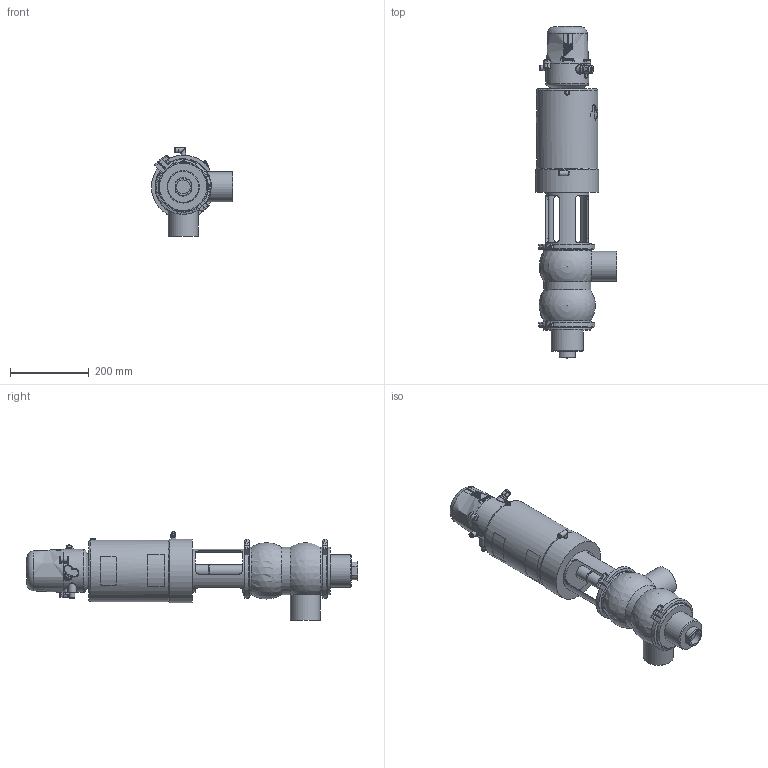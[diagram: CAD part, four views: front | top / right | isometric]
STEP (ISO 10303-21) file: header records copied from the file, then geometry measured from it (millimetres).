
FILE_DESCRIPTION (( 'STEP AP214' ), '1' );
FILE_NAME ('INNOVA S DB-90 W OD 3 & C-TOP S_10.251.16.0018.STEP', '2024-08-19T10:27:51', ( '' ), ( '' ), 'SwSTEP 2.0', 'SolidWorks 2023', '' );
FILE_SCHEMA (( 'AUTOMOTIVE_DESIGN' ));
Length unit declared in the file: millimetre
Products named in the file (7): 10.250.15.0002_Type S T2; 10.426.15.0001_C-TOP S - 1 EV; 10.251.15.0010_OD 3"; 10.251.15.0002_DN 3"; INNOVA S DB-90 W OD 3 & C-TOP S_10.251.16.0018; 10.240.15.0001_DN 080; 10.251.15.0001_OD 3"
Assembly tree (7 placements, depth 2):
  INNOVA S DB-90 W OD 3 & C-TOP S_10.251.16.0018
    10.251.15.0001_OD 3"
    10.250.15.0002_Type S T2
    10.426.15.0001_C-TOP S - 1 EV
    10.251.15.0010_OD 3"
    10.240.15.0001_DN 080  x2
    10.251.15.0002_DN 3"
Bounding box: 205.5 x 842.1 x 224 mm (x, y, z)
Volume: 10163556.4 mm3; surface area: 612518.3 mm2
Topology: 7 solids, 7 shells, 1184 faces, 2857 edges, 1898 vertices
Faces by surface type: plane 412, cylinder 369, cone 202, bspline 160, torus 33, sphere 8
Full cylindrical faces by diameter (mm): 0.371 x17, 0.512 x16, 0.658 x16, 0.795 x16, 0.94 x15, 1.098 x15, 1.241 x13, 1.382 x13, 1.523 x11, 1.669 x10, 2.201 x1, 4.2 x2, 5 x1, 5.5 x2, 6 x3, 6.15 x1, 8 x5, 8.5 x1, 10 x1, 10.5 x2, 11 x2, 12.5 x6, 13 x2, 13.5 x2, 17 x3, 20 x2, 22 x2, 30.5 x1, 32 x1, 35 x1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
Entity records: 59208 total; most frequent: CARTESIAN_POINT 28513, ORIENTED_EDGE 4578, DIRECTION 3687, EDGE_CURVE 2289, VERTEX_POINT 1621, EDGE_LOOP 1578, AXIS2_PLACEMENT_3D 1504, FACE_OUTER_BOUND 1339
